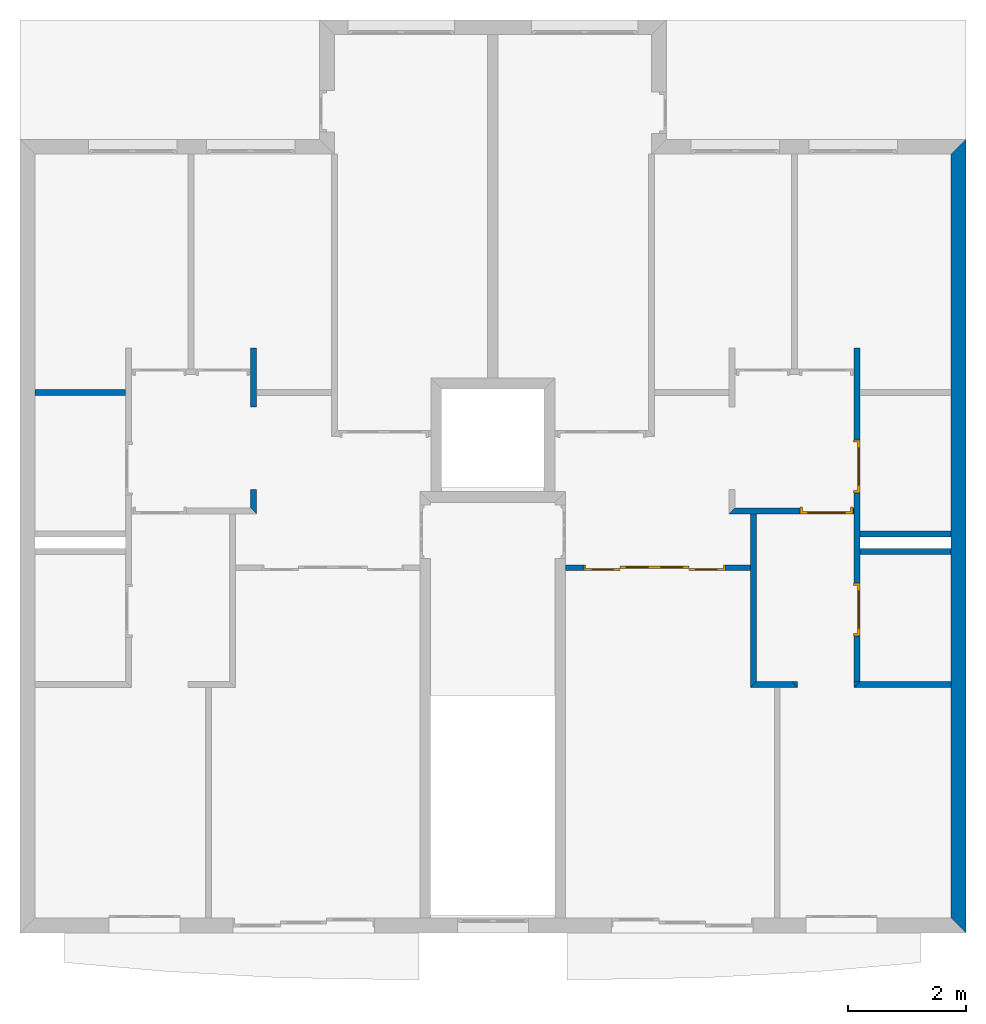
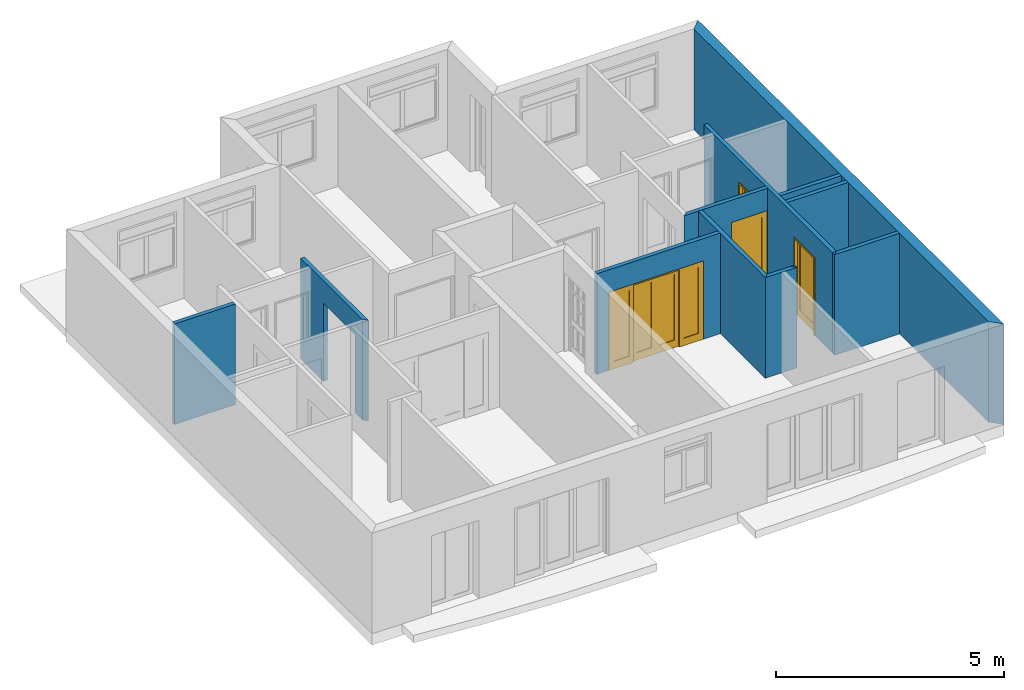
# One storey, part 8 of 13: 13 walls, 4 doors, 5 openings.
"""IFC2X3 building model written with IfcOpenShell, lengths in metres."""

from ifc_helpers import new_model, entity, si_unit, converted_unit, direction, frame, frame_2d, origin_with_axes, place, context, project, spatial, polyline, rectangle, outline, extrude, faceted_brep, source, transform, mapped, material, layer, layer_set, layer_usage, type_object, element, fill, save


model = new_model("IFC2X3")

# Units and contexts
context_of_model = context(None, 3, precision=1e-05, world=origin_with_axes(), true_north=direction((6.123234e-17, 1.0)))
plan_context = context("Plan", 3, precision=1e-05, world=origin_with_axes(), true_north=direction((6.123234e-17, 1.0)))
model_context = context("Model", 3, precision=1e-05, world=origin_with_axes(), true_north=direction((6.123234e-17, 1.0)))
ifc_project = project(units=[si_unit("LENGTHUNIT", "METRE"), si_unit("AREAUNIT", "SQUARE_METRE"), si_unit("VOLUMEUNIT", "CUBIC_METRE"), converted_unit("PLANEANGLEUNIT", "DEGREE", entity("IfcPlaneAngleMeasure", 0.017453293), si_unit("PLANEANGLEUNIT", "RADIAN"), dimensions=[0, 0, 0, 0, 0, 0, 0]), si_unit("SOLIDANGLEUNIT", "STERADIAN"), si_unit("MASSUNIT", "GRAM"), si_unit("TIMEUNIT", "SECOND"), si_unit("THERMODYNAMICTEMPERATUREUNIT", "DEGREE_CELSIUS"), si_unit("LUMINOUSINTENSITYUNIT", "LUMEN")], contexts=[context_of_model, plan_context, model_context])

# Site, building, storey
site_placement = place(None, origin_with_axes())
site = spatial("IfcSite", under=ifc_project, at=site_placement, Name="Por defecto Sitio", CompositionType="ELEMENT")
building_placement = place(site_placement, origin_with_axes())
building = spatial("IfcBuilding", under=site, at=building_placement, Name="Por defecto Edificio", CompositionType="ELEMENT")
storey_placement = place(building_placement, frame((0.0, 0.0, 7.2), z_axis=(0.0, 0.0, 1.0), x_axis=(1.0, 0.0, 0.0)))
storey = spatial("IfcBuildingStorey", under=building, at=storey_placement, Name="Segunda", CompositionType="ELEMENT", Elevation=7.2)

# Walls
ifc_material_1 = material(Name="Doble 1:4")
ifc_layer_1 = layer(ifc_material_1, 0.25, ventilated="UNKNOWN")
ifc_layer_set_1 = layer_set([ifc_layer_1], Name="Doble 1:4")
ifc_layer_usage_1 = layer_usage(ifc_layer_set_1, "AXIS2", "NEGATIVE", 0.0)
wall_type_1 = type_object("IfcWallType", Name="Doble 1:4", PredefinedType="NOTDEFINED")
wall_1_placement = place(storey_placement, frame((16.03417, 13.449173, 0.0), z_axis=(0.0, 0.0, 1.0), x_axis=(-2.1396841e-14, -1.0, 0.0)))
element("IfcWallStandardCase", 1, at=wall_1_placement, inside=storey, type_object=wall_type_1, material=ifc_layer_usage_1, Name="Muro-017", context=context_of_model, shape_type="SweptSolid", body=[
    extrude(outline(polyline([(0.25, -0.25), (13.199173, -0.25), (13.449173, 0.0), (0.0, 0.0), (0.25, -0.25)])), origin_with_axes(), (0.0, 0.0, 1.0), 2.7),
])
ifc_material_2 = material(Name="Ladrillo común")
ifc_layer_2 = layer(ifc_material_2, 0.1, ventilated="UNKNOWN")
ifc_layer_set_2 = layer_set([ifc_layer_2], Name="Ladrillo común")
ifc_layer_usage_2 = layer_usage(ifc_layer_set_2, "AXIS2", "POSITIVE", 0.0)
wall_type_2 = type_object("IfcWallType", Name="Ladrillo común", PredefinedType="NOTDEFINED")
wall_2_placement = place(storey_placement, frame((1.8901652, 9.2109196, 0.0), z_axis=(0.0, 0.0, 1.0), x_axis=(-1.0, 0.0, 0.0)))
element("IfcWallStandardCase", 2, at=wall_2_placement, inside=storey, type_object=wall_type_2, material=ifc_layer_usage_2, Name="Muro-037", context=context_of_model, shape_type="SweptSolid", body=[
    extrude(outline(polyline([(0.1, 0.0), (1.6401652, 0.0), (1.6401652, 0.1), (0.1, 0.1), (0.1, 0.0)])), origin_with_axes(), (0.0, 0.0, 1.0), 2.7),
])
ifc_layer_usage_3 = layer_usage(ifc_layer_set_2, "AXIS2", "NEGATIVE", 0.0)
wall_3_placement = place(storey_placement, frame((16.03417, 4.1588613, 0.0), z_axis=(0.0, 0.0, 1.0), x_axis=(-1.0, 0.0, 0.0)))
element("IfcWallStandardCase", 3, at=wall_3_placement, inside=storey, type_object=wall_type_2, material=ifc_layer_usage_3, Name="Muro-020", context=context_of_model, shape_type="SweptSolid", body=[
    extrude(outline(polyline([(0.25, -0.1), (1.7943351, -0.1), (1.8943351, 0.0), (0.25, 0.0), (0.25, -0.1)])), origin_with_axes(), (0.0, 0.0, 1.0), 2.7),
])
ifc_layer_usage_4 = layer_usage(ifc_layer_set_2, "AXIS2", "NEGATIVE", 0.0)
wall_4_placement = place(storey_placement, frame((14.139835, 6.8112172, 0.0), z_axis=(0.0, 0.0, 1.0), x_axis=(1.0, 0.0, 0.0)))
element("IfcWallStandardCase", 4, at=wall_4_placement, inside=storey, type_object=wall_type_2, material=ifc_layer_usage_4, Name="Muro-035", context=context_of_model, shape_type="SweptSolid", body=[
    extrude(outline(polyline([(0.1, -0.1), (1.6443351, -0.1), (1.6443351, 0.0), (0.1, 0.0), (0.1, -0.1)])), origin_with_axes(), (0.0, 0.0, 1.0), 2.7),
])
ifc_layer_usage_5 = layer_usage(ifc_layer_set_2, "AXIS2", "POSITIVE", 0.0)
wall_5_placement = place(storey_placement, frame((14.139835, 6.4112172, 0.0), z_axis=(0.0, 0.0, 1.0), x_axis=(1.0, 0.0, 0.0)))
element("IfcWallStandardCase", 5, at=wall_5_placement, inside=storey, type_object=wall_type_2, material=ifc_layer_usage_5, Name="Muro-036", context=context_of_model, shape_type="SweptSolid", body=[
    extrude(outline(polyline([(0.1, 0.0), (1.6443351, 0.0), (1.6443351, 0.1), (0.1, 0.1), (0.1, 0.0)])), origin_with_axes(), (0.0, 0.0, 1.0), 2.7),
])

# Wall, opening
ifc_layer_usage_6 = layer_usage(ifc_layer_set_2, "AXIS2", "NEGATIVE", 0.0)
wall_6_placement = place(storey_placement, frame((3.9101652, 7.2022014, 0.0), z_axis=(0.0, 0.0, 1.0), x_axis=(0.0, 1.0, 0.0)))
wall_6 = element("IfcWallStandardCase", 6, at=wall_6_placement, inside=storey, type_object=wall_type_2, material=ifc_layer_usage_6, Name="Muro-025", context=context_of_model, shape_type="SweptSolid", body=[
    extrude(outline(polyline([(-0.1, -0.1), (2.7087182, -0.1), (2.7087182, 4.4408921e-16), (0.0, 4.4408921e-16), (-0.1, -0.1)])), origin_with_axes(), (0.0, 0.0, 1.0), 2.7),
])
opening_1_placement = place(wall_6_placement, frame((1.0104776, -0.1, 0.0), z_axis=(0.0, 0.0, 1.0), x_axis=(1.0, 0.0, 0.0)))
element("IfcOpeningElement", 7, at=opening_1_placement, inside=storey, cuts=wall_6, ObjectType="Opening", context=model_context, shape_type="SweptSolid", body=[
    extrude(rectangle(XDim=1.4, YDim=2.1, at=frame_2d((4.4408921e-16, 1.05), x_axis=(-1.0, 0.0))), frame((0.0, 0.0, 0.0), z_axis=(0.0, 1.0, 0.0), x_axis=(-1.0, 0.0, 0.0)), (0.0, 0.0, 1.0), 0.1),
])

# Walls
ifc_layer_usage_7 = layer_usage(ifc_layer_set_2, "AXIS2", "NEGATIVE", 0.0)
wall_7_placement = place(storey_placement, frame((13.179835, 4.1588613, 0.0), z_axis=(0.0, 0.0, 1.0), x_axis=(-1.0, 0.0, 0.0)))
element("IfcWallStandardCase", 8, at=wall_7_placement, inside=storey, type_object=wall_type_2, material=ifc_layer_usage_7, Name="Muro-020", context=context_of_model, shape_type="SweptSolid", body=[
    extrude(outline(polyline([(0.1, -0.1), (0.7, -0.1), (0.8, 0.0), (0.0, 0.0), (0.1, -0.1)])), origin_with_axes(), (0.0, 0.0, 1.0), 2.7),
])
ifc_layer_usage_8 = layer_usage(ifc_layer_set_2, "AXIS2", "POSITIVE", 0.0)
wall_8_placement = place(storey_placement, frame((14.139835, 4.2588613, 0.0), z_axis=(0.0, 0.0, 1.0), x_axis=(0.0, -1.0, 0.0)))
element("IfcWallStandardCase", 9, at=wall_8_placement, inside=storey, type_object=wall_type_2, material=ifc_layer_usage_8, Name="Muro-034", context=context_of_model, shape_type="SweptSolid", body=[
    extrude(outline(polyline([(0.0, 0.0), (0.1, 0.0), (0.0, 0.1), (0.0, 0.1), (0.0, 0.0)])), origin_with_axes(), (0.0, 0.0, 1.0), 2.7),
])
ifc_layer_usage_9 = layer_usage(ifc_layer_set_2, "AXIS2", "NEGATIVE", 0.0)
wall_9_placement = place(storey_placement, frame((12.379835, 4.1588613, 0.0), z_axis=(0.0, 0.0, 1.0), x_axis=(0.0, 1.0, 0.0)))
element("IfcWallStandardCase", 10, at=wall_9_placement, inside=storey, type_object=wall_type_2, material=ifc_layer_usage_9, Name="Muro-021", context=context_of_model, shape_type="SweptSolid", body=[
    extrude(outline(polyline([(0.1, -0.1), (2.9433401, -0.1), (2.9433401, 0.0), (0.0, 0.0), (0.1, -0.1)])), origin_with_axes(), (0.0, 0.0, 1.0), 2.7),
])

# Wall, opening, door
ifc_layer_usage_10 = layer_usage(ifc_layer_set_2, "AXIS2", "POSITIVE", 0.0)
wall_10_placement = place(storey_placement, frame((14.139835, 7.2022014, 0.0), z_axis=(0.0, 0.0, 1.0), x_axis=(-1.0, 0.0, 0.0)))
wall_10 = element("IfcWallStandardCase", 11, at=wall_10_placement, inside=storey, type_object=wall_type_2, material=ifc_layer_usage_10, Name="Muro-024", context=context_of_model, shape_type="SweptSolid", body=[
    extrude(outline(polyline([(0.0, 0.0), (2.02, 0.0), (2.12, 0.1), (0.0, 0.1), (0.0, 0.0)])), origin_with_axes(), (0.0, 0.0, 1.0), 2.7),
])
opening_2_placement = place(wall_10_placement, frame((0.46942735, 0.0, 0.0), z_axis=(0.0, 0.0, 1.0), x_axis=(1.0, 0.0, 0.0)))
opening_2 = element("IfcOpeningElement", 12, at=opening_2_placement, cuts=wall_10, ObjectType="Opening", context=model_context, shape_type="SweptSolid", body=[
    extrude(rectangle(XDim=0.9, YDim=2.1, at=frame_2d((0.0, 1.05), x_axis=(-1.0, 0.0))), frame((0.0, 0.0, 0.0), z_axis=(0.0, 1.0, 0.0), x_axis=(-1.0, 0.0, 0.0)), (0.0, 0.0, 1.0), 0.1),
])
door_style_1 = type_object("IfcDoorStyle", Name="P1 12", ConstructionType="NOTDEFINED", OperationType="SINGLE_SWING_RIGHT", ParameterTakesPrecedence=False, Sizeable=False)
shared_shape_1 = source(origin_with_axes(), model_context, "Body", "Brep", [
    faceted_brep([(0.04, 0.075, -2.4492936e-18), (0.04, 0.075, 2.06), (0.04, 0.0, 2.06), (0.04, 0.0, -7.0417191e-18), (0.028, 0.075, 2.06), (0.028, 0.075, -2.4492936e-18), (0.028, 0.115, 2.06), (0.0, 0.115, 2.06), (0.0, 0.0, 2.06), (0.0, 0.0, 0.0), (0.0, 0.115, 3.3744595e-33), (0.028, 0.115, 3.2707143e-33)], [[[0, 1, 2, 3]], [[4, 1, 0, 5]], [[4, 6, 7, 8, 2, 1]], [[9, 3, 2, 8]], [[5, 0, 3, 9, 10, 11]], [[6, 4, 5, 11]], [[6, 11, 10, 7]], [[8, 7, 10, 9]]]),
    faceted_brep([(0.872, 0.075, 2.06), (0.86, 0.075, 2.06), (0.86, 0.0, 2.06), (0.9, 0.0, 2.06), (0.9, 0.115, 2.06), (0.872, 0.115, 2.06), (0.872, 0.075, -2.4492936e-18), (0.86, 0.075, -2.4492936e-18), (0.86, 0.0, -7.0417191e-18), (0.9, 0.0, -7.0417191e-18), (0.9, 0.115, -3.3744595e-33), (0.872, 0.115, -3.1644931e-33)], [[[0, 1, 2, 3, 4, 5]], [[1, 0, 6, 7]], [[1, 7, 8, 2]], [[8, 9, 3, 2]], [[9, 10, 4, 3]], [[11, 5, 4, 10]], [[0, 5, 11, 6]], [[6, 11, 10, 9, 8, 7]]]),
    faceted_brep([(0.028, 0.115, 2.072), (0.028, 0.115, 2.06), (0.0, 0.115, 2.06), (0.0, 0.115, 2.1), (0.9, 0.115, 2.1), (0.9, 0.115, 2.06), (0.872, 0.115, 2.06), (0.872, 0.115, 2.072), (0.028, 0.075, 2.072), (0.028, 0.075, 2.06), (0.04, 0.075, 2.06), (0.04, 0.0, 2.06), (0.0, 0.0, 2.06), (0.0, 0.0, 2.1), (0.9, 0.0, 2.1), (0.9, 0.0, 2.06), (0.872, 0.075, 2.06), (0.86, 0.0, 2.06), (0.86, 0.075, 2.06), (0.872, 0.075, 2.072)], [[[0, 1, 2, 3, 4, 5, 6, 7]], [[1, 0, 8, 9]], [[9, 10, 11, 12, 2, 1]], [[13, 3, 2, 12]], [[14, 4, 3, 13]], [[15, 5, 4, 14]], [[16, 6, 5, 15, 17, 18]], [[7, 6, 16, 19]], [[0, 7, 19, 8]], [[16, 18, 10, 9, 8, 19]], [[10, 18, 17, 11]], [[14, 13, 12, 11, 17, 15]]]),
    faceted_brep([(0.872, 0.115, 0.2), (0.872, 0.075, 0.2), (0.772, 0.075, 0.2), (0.772, 0.115, 0.2), (0.872, 0.115, 1.972), (0.872, 0.075, 1.972), (0.772, 0.075, 1.972), (0.772, 0.115, 1.972)], [[[0, 1, 2, 3]], [[4, 5, 1, 0]], [[1, 5, 6, 2]], [[3, 2, 6, 7]], [[0, 3, 7, 4]], [[7, 6, 5, 4]]]),
    faceted_brep([(0.028, 0.115, 0.2), (0.028, 0.075, 0.2), (0.028, 0.075, 1.972), (0.028, 0.115, 1.972), (0.128, 0.115, 0.2), (0.128, 0.075, 0.2), (0.128, 0.075, 1.972), (0.128, 0.115, 1.972)], [[[0, 1, 2, 3]], [[4, 5, 1, 0]], [[1, 5, 6, 2]], [[3, 2, 6, 7]], [[0, 3, 7, 4]], [[7, 6, 5, 4]]]),
    faceted_brep([(0.872, 0.115, -3.1644931e-33), (0.872, 0.075, -2.4492936e-18), (0.028, 0.075, -2.4492936e-18), (0.028, 0.115, 3.1644931e-33), (0.872, 0.115, 0.2), (0.872, 0.075, 0.2), (0.772, 0.075, 0.2), (0.128, 0.075, 0.2), (0.028, 0.075, 0.2), (0.028, 0.115, 0.2), (0.128, 0.115, 0.2), (0.772, 0.115, 0.2)], [[[0, 1, 2, 3]], [[4, 5, 1, 0]], [[1, 5, 6, 7, 8, 2]], [[3, 2, 8, 9]], [[0, 3, 9, 10, 11, 4]], [[11, 6, 5, 4]], [[10, 7, 6, 11]], [[9, 8, 7, 10]]]),
    faceted_brep([(0.872, 0.115, 2.072), (0.872, 0.075, 2.072), (0.872, 0.075, 1.972), (0.872, 0.115, 1.972), (0.028, 0.115, 2.072), (0.028, 0.075, 2.072), (0.028, 0.075, 1.972), (0.128, 0.075, 1.972), (0.772, 0.075, 1.972), (0.772, 0.115, 1.972), (0.128, 0.115, 1.972), (0.028, 0.115, 1.972)], [[[0, 1, 2, 3]], [[4, 5, 1, 0]], [[1, 5, 6, 7, 8, 2]], [[3, 2, 8, 9]], [[0, 3, 9, 10, 11, 4]], [[11, 6, 5, 4]], [[10, 7, 6, 11]], [[9, 8, 7, 10]]]),
    faceted_brep([(0.772, 0.101, 0.2), (0.772, 0.089, 0.2), (0.128, 0.089, 0.2), (0.128, 0.101, 0.2), (0.772, 0.101, 1.972), (0.772, 0.089, 1.972), (0.128, 0.089, 1.972), (0.128, 0.101, 1.972)], [[[0, 1, 2, 3]], [[4, 5, 1, 0]], [[1, 5, 6, 2]], [[3, 2, 6, 7]], [[0, 3, 7, 4]], [[7, 6, 5, 4]]]),
])
door_1_placement = place(opening_2_placement, frame((-0.45, -0.015, 0.0), z_axis=(0.0, 0.0, 1.0), x_axis=(1.0, 0.0, 0.0)))
door_1 = element("IfcDoor", 13, at=door_1_placement, inside=storey, type_object=door_style_1, Name="P18", OverallHeight=2.1, OverallWidth=0.9, context=model_context, shape_type="MappedRepresentation", body=[
    mapped(shared_shape_1, transform((0.0, 0.0, 0.0), scale=1.0)),
])
fill(opening_2, door_1)

ifc_layer_usage_11 = layer_usage(ifc_layer_set_2, "AXIS2", "NEGATIVE", 0.05)
wall_11_placement = place(storey_placement, frame((12.379835, 6.1881579, 0.0), z_axis=(0.0, 0.0, 1.0), x_axis=(-1.0, 0.0, 0.0)))
wall_11 = element("IfcWallStandardCase", 14, at=wall_11_placement, inside=storey, type_object=wall_type_2, material=ifc_layer_usage_11, Name="Muro-028", context=context_of_model, shape_type="SweptSolid", body=[
    extrude(outline(polyline([(0.0, -0.05), (3.1306649, -0.05), (3.1306649, 0.05), (0.0, 0.05), (0.0, -0.05)])), origin_with_axes(), (0.0, 0.0, 1.0), 2.7),
])
opening_3_placement = place(wall_11_placement, frame((1.6239004, -0.05, 0.0), z_axis=(0.0, 0.0, 1.0), x_axis=(1.0, 0.0, 0.0)))
opening_3 = element("IfcOpeningElement", 15, at=opening_3_placement, cuts=wall_11, ObjectType="Opening", context=model_context, shape_type="SweptSolid", body=[
    extrude(rectangle(XDim=2.4, YDim=2.1, at=frame_2d((0.0, 1.05), x_axis=(1.0, 0.0))), frame((0.0, 0.0, 0.0), z_axis=(0.0, 1.0, 0.0), x_axis=(-1.0, 0.0, 0.0)), (0.0, 0.0, 1.0), 0.1),
])
door_style_2 = type_object("IfcDoorStyle", Name="P4 Corredera 12", ConstructionType="NOTDEFINED", OperationType="DOUBLE_DOOR_SLIDING", ParameterTakesPrecedence=False, Sizeable=False)
shared_shape_2 = source(origin_with_axes(), model_context, "Body", "Brep", [
    faceted_brep([(2.368, 0.1, 0.0), (2.368, -8.8817842e-16, 0.0), (2.368, 0.0, 2.068), (2.368, 0.1, 2.068), (2.4, 0.1, 0.0), (2.4, -8.8817842e-16, 0.0), (2.4, 0.0, 2.068), (2.4, 0.1, 2.068)], [[[0, 1, 2, 3]], [[4, 5, 1, 0]], [[1, 5, 6, 2]], [[3, 2, 6, 7]], [[0, 3, 7, 4]], [[7, 6, 5, 4]]]),
    faceted_brep([(0.0, 0.1, 0.0), (0.0, 0.0, 0.0), (0.0, 0.0, 2.068), (0.0, 0.1, 2.068), (0.032, 0.1, 0.0), (0.032, 0.0, 0.0), (0.032, 0.0, 2.068), (0.032, 0.1, 2.068)], [[[0, 1, 2, 3]], [[4, 5, 1, 0]], [[1, 5, 6, 2]], [[3, 2, 6, 7]], [[0, 3, 7, 4]], [[7, 6, 5, 4]]]),
    faceted_brep([(2.4, 0.1, 2.1), (2.4, 0.0, 2.1), (2.4, 0.0, 2.068), (2.4, 0.1, 2.068), (0.0, 0.1, 2.1), (0.0, 0.0, 2.1), (0.0, 0.0, 2.068), (0.032, 0.0, 2.068), (2.368, 0.0, 2.068), (2.368, 0.1, 2.068), (0.032, 0.1, 2.068), (0.0, 0.1, 2.068)], [[[0, 1, 2, 3]], [[4, 5, 1, 0]], [[1, 5, 6, 7, 8, 2]], [[3, 2, 8, 9]], [[0, 3, 9, 10, 11, 4]], [[11, 6, 5, 4]], [[10, 7, 6, 11]], [[9, 8, 7, 10]]]),
    faceted_brep([(0.032, 0.1, 0.2), (0.132, 0.1, 0.2), (0.132, 0.06, 0.2), (0.032, 0.06, 0.2), (0.032, 0.1, 1.968), (0.132, 0.1, 1.968), (0.132, 0.06, 1.968), (0.032, 0.06, 1.968)], [[[0, 1, 2, 3]], [[0, 4, 5, 1]], [[1, 5, 6, 2]], [[3, 2, 6, 7]], [[4, 0, 3, 7]], [[5, 4, 7, 6]]]),
    faceted_brep([(0.616, 0.1, 0.2), (0.616, 0.1, 1.968), (0.616, 0.06, 1.968), (0.616, 0.06, 0.2), (0.516, 0.1, 0.2), (0.516, 0.1, 1.968), (0.516, 0.06, 1.968), (0.516, 0.06, 0.2)], [[[0, 1, 2, 3]], [[0, 4, 5, 1]], [[1, 5, 6, 2]], [[3, 2, 6, 7]], [[4, 0, 3, 7]], [[5, 4, 7, 6]]]),
    faceted_brep([(0.032, 0.1, 0.0), (0.616, 0.1, 0.0), (0.616, 0.06, 0.0), (0.032, 0.06, 0.0), (0.032, 0.1, 0.2), (0.132, 0.1, 0.2), (0.516, 0.1, 0.2), (0.616, 0.1, 0.2), (0.616, 0.06, 0.2), (0.516, 0.06, 0.2), (0.132, 0.06, 0.2), (0.032, 0.06, 0.2)], [[[0, 1, 2, 3]], [[0, 4, 5, 6, 7, 1]], [[1, 7, 8, 2]], [[3, 2, 8, 9, 10, 11]], [[4, 0, 3, 11]], [[5, 4, 11, 10]], [[6, 5, 10, 9]], [[7, 6, 9, 8]]]),
    faceted_brep([(0.032, 0.1, 2.068), (0.032, 0.1, 1.968), (0.032, 0.06, 1.968), (0.032, 0.06, 2.068), (0.616, 0.1, 2.068), (0.616, 0.1, 1.968), (0.516, 0.1, 1.968), (0.132, 0.1, 1.968), (0.132, 0.06, 1.968), (0.516, 0.06, 1.968), (0.616, 0.06, 1.968), (0.616, 0.06, 2.068)], [[[0, 1, 2, 3]], [[0, 4, 5, 6, 7, 1]], [[1, 7, 8, 2]], [[3, 2, 8, 9, 10, 11]], [[4, 0, 3, 11]], [[5, 4, 11, 10]], [[6, 5, 10, 9]], [[7, 6, 9, 8]]]),
    faceted_brep([(0.132, 0.086, 0.2), (0.516, 0.086, 0.2), (0.516, 0.074, 0.2), (0.132, 0.074, 0.2), (0.132, 0.086, 1.968), (0.516, 0.086, 1.968), (0.516, 0.074, 1.968), (0.132, 0.074, 1.968)], [[[0, 1, 2, 3]], [[0, 4, 5, 1]], [[1, 5, 6, 2]], [[3, 2, 6, 7]], [[4, 0, 3, 7]], [[5, 4, 7, 6]]]),
    faceted_brep([(2.368, 0.1, 0.2), (2.368, 0.06, 0.2), (2.268, 0.06, 0.2), (2.268, 0.1, 0.2), (2.368, 0.1, 1.968), (2.368, 0.06, 1.968), (2.268, 0.06, 1.968), (2.268, 0.1, 1.968)], [[[0, 1, 2, 3]], [[4, 5, 1, 0]], [[1, 5, 6, 2]], [[3, 2, 6, 7]], [[0, 3, 7, 4]], [[7, 6, 5, 4]]]),
    faceted_brep([(1.784, 0.1, 0.2), (1.784, 0.06, 0.2), (1.784, 0.06, 1.968), (1.784, 0.1, 1.968), (1.884, 0.1, 0.2), (1.884, 0.06, 0.2), (1.884, 0.06, 1.968), (1.884, 0.1, 1.968)], [[[0, 1, 2, 3]], [[4, 5, 1, 0]], [[1, 5, 6, 2]], [[3, 2, 6, 7]], [[0, 3, 7, 4]], [[7, 6, 5, 4]]]),
    faceted_brep([(2.368, 0.1, 0.0), (2.368, 0.06, 0.0), (1.784, 0.06, 0.0), (1.784, 0.1, 0.0), (2.368, 0.1, 0.2), (2.368, 0.06, 0.2), (2.268, 0.06, 0.2), (1.884, 0.06, 0.2), (1.784, 0.06, 0.2), (1.784, 0.1, 0.2), (1.884, 0.1, 0.2), (2.268, 0.1, 0.2)], [[[0, 1, 2, 3]], [[4, 5, 1, 0]], [[1, 5, 6, 7, 8, 2]], [[3, 2, 8, 9]], [[0, 3, 9, 10, 11, 4]], [[11, 6, 5, 4]], [[10, 7, 6, 11]], [[9, 8, 7, 10]]]),
    faceted_brep([(2.368, 0.1, 2.068), (2.368, 0.06, 2.068), (2.368, 0.06, 1.968), (2.368, 0.1, 1.968), (1.784, 0.1, 2.068), (1.784, 0.06, 2.068), (1.784, 0.06, 1.968), (1.884, 0.06, 1.968), (2.268, 0.06, 1.968), (2.268, 0.1, 1.968), (1.884, 0.1, 1.968), (1.784, 0.1, 1.968)], [[[0, 1, 2, 3]], [[4, 5, 1, 0]], [[1, 5, 6, 7, 8, 2]], [[3, 2, 8, 9]], [[0, 3, 9, 10, 11, 4]], [[11, 6, 5, 4]], [[10, 7, 6, 11]], [[9, 8, 7, 10]]]),
    faceted_brep([(2.268, 0.086, 0.2), (2.268, 0.074, 0.2), (1.884, 0.074, 0.2), (1.884, 0.086, 0.2), (2.268, 0.086, 1.968), (2.268, 0.074, 1.968), (1.884, 0.074, 1.968), (1.884, 0.086, 1.968)], [[[0, 1, 2, 3]], [[4, 5, 1, 0]], [[1, 5, 6, 2]], [[3, 2, 6, 7]], [[0, 3, 7, 4]], [[7, 6, 5, 4]]]),
    faceted_brep([(0.616, 0.06, 0.2), (0.716, 0.06, 0.2), (0.716, 0.02, 0.2), (0.616, 0.02, 0.2), (0.616, 0.06, 1.968), (0.716, 0.06, 1.968), (0.716, 0.02, 1.968), (0.616, 0.02, 1.968)], [[[0, 1, 2, 3]], [[0, 4, 5, 1]], [[1, 5, 6, 2]], [[3, 2, 6, 7]], [[4, 0, 3, 7]], [[5, 4, 7, 6]]]),
    faceted_brep([(1.2, 0.06, 0.2), (1.2, 0.06, 1.968), (1.2, 0.02, 1.968), (1.2, 0.02, 0.2), (1.1, 0.06, 0.2), (1.1, 0.06, 1.968), (1.1, 0.02, 1.968), (1.1, 0.02, 0.2)], [[[0, 1, 2, 3]], [[0, 4, 5, 1]], [[1, 5, 6, 2]], [[3, 2, 6, 7]], [[4, 0, 3, 7]], [[5, 4, 7, 6]]]),
    faceted_brep([(0.616, 0.06, 0.0), (1.2, 0.06, 0.0), (1.2, 0.02, 0.0), (0.616, 0.02, 0.0), (0.616, 0.06, 0.2), (0.716, 0.06, 0.2), (1.1, 0.06, 0.2), (1.2, 0.06, 0.2), (1.2, 0.02, 0.2), (1.1, 0.02, 0.2), (0.716, 0.02, 0.2), (0.616, 0.02, 0.2)], [[[0, 1, 2, 3]], [[0, 4, 5, 6, 7, 1]], [[1, 7, 8, 2]], [[3, 2, 8, 9, 10, 11]], [[4, 0, 3, 11]], [[5, 4, 11, 10]], [[6, 5, 10, 9]], [[7, 6, 9, 8]]]),
    faceted_brep([(0.616, 0.06, 2.068), (0.616, 0.06, 1.968), (0.616, 0.02, 1.968), (0.616, 0.02, 2.068), (1.2, 0.06, 2.068), (1.2, 0.06, 1.968), (1.1, 0.06, 1.968), (0.716, 0.06, 1.968), (0.716, 0.02, 1.968), (1.1, 0.02, 1.968), (1.2, 0.02, 1.968), (1.2, 0.02, 2.068)], [[[0, 1, 2, 3]], [[0, 4, 5, 6, 7, 1]], [[1, 7, 8, 2]], [[3, 2, 8, 9, 10, 11]], [[4, 0, 3, 11]], [[5, 4, 11, 10]], [[6, 5, 10, 9]], [[7, 6, 9, 8]]]),
    faceted_brep([(0.716, 0.046, 0.2), (1.1, 0.046, 0.2), (1.1, 0.034, 0.2), (0.716, 0.034, 0.2), (0.716, 0.046, 1.968), (1.1, 0.046, 1.968), (1.1, 0.034, 1.968), (0.716, 0.034, 1.968)], [[[0, 1, 2, 3]], [[0, 4, 5, 1]], [[1, 5, 6, 2]], [[3, 2, 6, 7]], [[4, 0, 3, 7]], [[5, 4, 7, 6]]]),
    faceted_brep([(1.784, 0.06, 0.2), (1.784, 0.02, 0.2), (1.684, 0.02, 0.2), (1.684, 0.06, 0.2), (1.784, 0.06, 1.968), (1.784, 0.02, 1.968), (1.684, 0.02, 1.968), (1.684, 0.06, 1.968)], [[[0, 1, 2, 3]], [[4, 5, 1, 0]], [[1, 5, 6, 2]], [[3, 2, 6, 7]], [[0, 3, 7, 4]], [[7, 6, 5, 4]]]),
    faceted_brep([(1.2, 0.06, 0.2), (1.2, 0.02, 0.2), (1.2, 0.02, 1.968), (1.2, 0.06, 1.968), (1.3, 0.06, 0.2), (1.3, 0.02, 0.2), (1.3, 0.02, 1.968), (1.3, 0.06, 1.968)], [[[0, 1, 2, 3]], [[4, 5, 1, 0]], [[1, 5, 6, 2]], [[3, 2, 6, 7]], [[0, 3, 7, 4]], [[7, 6, 5, 4]]]),
    faceted_brep([(1.784, 0.06, 0.0), (1.784, 0.02, 0.0), (1.2, 0.02, 0.0), (1.2, 0.06, 0.0), (1.784, 0.06, 0.2), (1.784, 0.02, 0.2), (1.684, 0.02, 0.2), (1.3, 0.02, 0.2), (1.2, 0.02, 0.2), (1.2, 0.06, 0.2), (1.3, 0.06, 0.2), (1.684, 0.06, 0.2)], [[[0, 1, 2, 3]], [[4, 5, 1, 0]], [[1, 5, 6, 7, 8, 2]], [[3, 2, 8, 9]], [[0, 3, 9, 10, 11, 4]], [[11, 6, 5, 4]], [[10, 7, 6, 11]], [[9, 8, 7, 10]]]),
    faceted_brep([(1.784, 0.06, 2.068), (1.784, 0.02, 2.068), (1.784, 0.02, 1.968), (1.784, 0.06, 1.968), (1.2, 0.06, 2.068), (1.2, 0.02, 2.068), (1.2, 0.02, 1.968), (1.3, 0.02, 1.968), (1.684, 0.02, 1.968), (1.684, 0.06, 1.968), (1.3, 0.06, 1.968), (1.2, 0.06, 1.968)], [[[0, 1, 2, 3]], [[4, 5, 1, 0]], [[1, 5, 6, 7, 8, 2]], [[3, 2, 8, 9]], [[0, 3, 9, 10, 11, 4]], [[11, 6, 5, 4]], [[10, 7, 6, 11]], [[9, 8, 7, 10]]]),
    faceted_brep([(1.684, 0.046, 0.2), (1.684, 0.034, 0.2), (1.3, 0.034, 0.2), (1.3, 0.046, 0.2), (1.684, 0.046, 1.968), (1.684, 0.034, 1.968), (1.3, 0.034, 1.968), (1.3, 0.046, 1.968)], [[[0, 1, 2, 3]], [[4, 5, 1, 0]], [[1, 5, 6, 2]], [[3, 2, 6, 7]], [[0, 3, 7, 4]], [[7, 6, 5, 4]]]),
])
door_2_placement = place(opening_3_placement, frame((-1.2, 0.0, 0.0), z_axis=(0.0, 0.0, 1.0), x_axis=(1.0, 0.0, 0.0)))
door_2 = element("IfcDoor", 16, at=door_2_placement, inside=storey, type_object=door_style_2, Name="P21", OverallHeight=2.1, OverallWidth=2.4, context=model_context, shape_type="MappedRepresentation", body=[
    mapped(shared_shape_2, transform((0.0, 0.0, 0.0), scale=1.0)),
])
fill(opening_3, door_2)

# Wall, openings, doors
ifc_layer_usage_12 = layer_usage(ifc_layer_set_2, "AXIS2", "POSITIVE", 0.0)
wall_12_placement = place(storey_placement, frame((14.139835, 9.9109196, 0.0), z_axis=(0.0, 0.0, 1.0), x_axis=(0.0, -1.0, 0.0)))
wall_12 = element("IfcWallStandardCase", 17, at=wall_12_placement, inside=storey, type_object=wall_type_2, material=ifc_layer_usage_12, Name="Muro-034", context=context_of_model, shape_type="SweptSolid", body=[
    extrude(outline(polyline([(0.0, 0.0), (5.6520584, 0.0), (5.6520584, 0.1), (0.0, 0.1), (0.0, 0.0)])), origin_with_axes(), (0.0, 0.0, 1.0), 2.7),
])
opening_4_placement = place(wall_12_placement, frame((4.4313728, 0.0, 0.0), z_axis=(0.0, 0.0, 1.0), x_axis=(1.0, 0.0, 0.0)))
opening_4 = element("IfcOpeningElement", 18, at=opening_4_placement, cuts=wall_12, ObjectType="Opening", context=model_context, shape_type="SweptSolid", body=[
    extrude(rectangle(XDim=0.9, YDim=2.1, at=frame_2d((0.0, 1.05), x_axis=(-1.0, 0.0))), frame((0.0, 0.0, 0.0), z_axis=(0.0, 1.0, 0.0), x_axis=(-1.0, 0.0, 0.0)), (0.0, 0.0, 1.0), 0.1),
])
opening_5_placement = place(wall_12_placement, frame((2.0054523, 0.0, 0.0), z_axis=(0.0, 0.0, 1.0), x_axis=(1.0, 0.0, 0.0)))
opening_5 = element("IfcOpeningElement", 19, at=opening_5_placement, cuts=wall_12, ObjectType="Opening", context=model_context, shape_type="SweptSolid", body=[
    extrude(rectangle(XDim=0.9, YDim=2.1, at=frame_2d((-4.4408921e-16, 1.05), x_axis=(-1.0, 0.0))), frame((0.0, 0.0, 0.0), z_axis=(0.0, 1.0, 0.0), x_axis=(-1.0, 0.0, 0.0)), (0.0, 0.0, 1.0), 0.1),
])
door_style_3 = type_object("IfcDoorStyle", Name="P1 12", ConstructionType="NOTDEFINED", OperationType="SINGLE_SWING_RIGHT", ParameterTakesPrecedence=False, Sizeable=False)
door_3_placement = place(opening_4_placement, frame((-0.45, -0.015, 0.0), z_axis=(0.0, 0.0, 1.0), x_axis=(1.0, 0.0, 0.0)))
door_3 = element("IfcDoor", 20, at=door_3_placement, inside=storey, type_object=door_style_3, Name="P19", OverallHeight=2.1, OverallWidth=0.9, context=model_context, shape_type="MappedRepresentation", body=[
    mapped(shared_shape_1, transform((0.0, 0.0, 0.0), scale=1.0)),
])
fill(opening_4, door_3)
door_style_4 = type_object("IfcDoorStyle", Name="P1 12", ConstructionType="NOTDEFINED", OperationType="SINGLE_SWING_LEFT", ParameterTakesPrecedence=False, Sizeable=False)
shared_shape_3 = source(origin_with_axes(), model_context, "Body", "Brep", [
    faceted_brep([(0.86, 0.075, 0.0), (0.86, 0.0, 0.0), (0.86, 0.0, 2.06), (0.86, 0.075, 2.06), (0.872, 0.075, 0.0), (0.872, 0.115, 0.0), (0.9, 0.115, 0.0), (0.9, 0.0, 0.0), (0.9, 0.0, 2.06), (0.872, 0.075, 2.06), (0.9, 0.115, 2.06), (0.872, 0.115, 2.06)], [[[0, 1, 2, 3]], [[4, 5, 6, 7, 1, 0]], [[7, 8, 2, 1]], [[9, 3, 2, 8, 10, 11]], [[9, 4, 0, 3]], [[11, 5, 4, 9]], [[11, 10, 6, 5]], [[8, 7, 6, 10]]]),
    faceted_brep([(0.028, 0.075, 2.06), (0.028, 0.115, 2.06), (-4.4408921e-16, 0.115, 2.06), (-4.4408921e-16, 0.0, 2.06), (0.04, 0.0, 2.06), (0.04, 0.075, 2.06), (0.028, 0.075, 0.0), (0.028, 0.115, 0.0), (-4.4408921e-16, 0.115, 0.0), (0.0, 0.0, 0.0), (0.04, 0.0, 0.0), (0.04, 0.075, 0.0)], [[[0, 1, 2, 3, 4, 5]], [[0, 6, 7, 1]], [[7, 8, 2, 1]], [[9, 3, 2, 8]], [[10, 4, 3, 9]], [[5, 4, 10, 11]], [[5, 11, 6, 0]], [[6, 11, 10, 9, 8, 7]]]),
    faceted_brep([(0.872, 0.115, 2.072), (0.028, 0.115, 2.072), (0.028, 0.115, 2.06), (-4.4408921e-16, 0.115, 2.06), (-4.4408921e-16, 0.115, 2.1), (0.9, 0.115, 2.1), (0.9, 0.115, 2.06), (0.872, 0.115, 2.06), (0.872, 0.075, 2.072), (0.028, 0.075, 2.072), (0.028, 0.075, 2.06), (0.04, 0.075, 2.06), (0.04, 0.0, 2.06), (-4.4408921e-16, 0.0, 2.06), (-4.4408921e-16, 0.0, 2.1), (0.9, 0.0, 2.1), (0.9, 0.0, 2.06), (0.872, 0.075, 2.06), (0.86, 0.0, 2.06), (0.86, 0.075, 2.06)], [[[0, 1, 2, 3, 4, 5, 6, 7]], [[0, 8, 9, 1]], [[1, 9, 10, 2]], [[10, 11, 12, 13, 3, 2]], [[13, 14, 4, 3]], [[14, 15, 5, 4]], [[15, 16, 6, 5]], [[17, 7, 6, 16, 18, 19]], [[7, 17, 8, 0]], [[10, 9, 8, 17, 19, 11]], [[19, 18, 12, 11]], [[14, 13, 12, 18, 16, 15]]]),
    faceted_brep([(0.028, 0.115, 0.2), (0.128, 0.115, 0.2), (0.128, 0.075, 0.2), (0.028, 0.075, 0.2), (0.028, 0.115, 1.972), (0.128, 0.115, 1.972), (0.128, 0.075, 1.972), (0.028, 0.075, 1.972)], [[[0, 1, 2, 3]], [[0, 4, 5, 1]], [[1, 5, 6, 2]], [[3, 2, 6, 7]], [[4, 0, 3, 7]], [[5, 4, 7, 6]]]),
    faceted_brep([(0.872, 0.115, 0.2), (0.872, 0.115, 1.972), (0.872, 0.075, 1.972), (0.872, 0.075, 0.2), (0.772, 0.115, 0.2), (0.772, 0.115, 1.972), (0.772, 0.075, 1.972), (0.772, 0.075, 0.2)], [[[0, 1, 2, 3]], [[0, 4, 5, 1]], [[1, 5, 6, 2]], [[3, 2, 6, 7]], [[4, 0, 3, 7]], [[5, 4, 7, 6]]]),
    faceted_brep([(0.028, 0.115, 0.0), (0.872, 0.115, 0.0), (0.872, 0.075, 0.0), (0.028, 0.075, 0.0), (0.028, 0.115, 0.2), (0.128, 0.115, 0.2), (0.772, 0.115, 0.2), (0.872, 0.115, 0.2), (0.872, 0.075, 0.2), (0.772, 0.075, 0.2), (0.128, 0.075, 0.2), (0.028, 0.075, 0.2)], [[[0, 1, 2, 3]], [[0, 4, 5, 6, 7, 1]], [[1, 7, 8, 2]], [[3, 2, 8, 9, 10, 11]], [[4, 0, 3, 11]], [[5, 4, 11, 10]], [[6, 5, 10, 9]], [[7, 6, 9, 8]]]),
    faceted_brep([(0.028, 0.115, 2.072), (0.028, 0.115, 1.972), (0.028, 0.075, 1.972), (0.028, 0.075, 2.072), (0.872, 0.115, 2.072), (0.872, 0.115, 1.972), (0.772, 0.115, 1.972), (0.128, 0.115, 1.972), (0.128, 0.075, 1.972), (0.772, 0.075, 1.972), (0.872, 0.075, 1.972), (0.872, 0.075, 2.072)], [[[0, 1, 2, 3]], [[0, 4, 5, 6, 7, 1]], [[1, 7, 8, 2]], [[3, 2, 8, 9, 10, 11]], [[4, 0, 3, 11]], [[5, 4, 11, 10]], [[6, 5, 10, 9]], [[7, 6, 9, 8]]]),
    faceted_brep([(0.128, 0.101, 0.2), (0.772, 0.101, 0.2), (0.772, 0.089, 0.2), (0.128, 0.089, 0.2), (0.128, 0.101, 1.972), (0.772, 0.101, 1.972), (0.772, 0.089, 1.972), (0.128, 0.089, 1.972)], [[[0, 1, 2, 3]], [[0, 4, 5, 1]], [[1, 5, 6, 2]], [[3, 2, 6, 7]], [[4, 0, 3, 7]], [[5, 4, 7, 6]]]),
])
door_4_placement = place(opening_5_placement, frame((-0.45, -0.015, 0.0), z_axis=(0.0, 0.0, 1.0), x_axis=(1.0, 0.0, 0.0)))
door_4 = element("IfcDoor", 21, at=door_4_placement, inside=storey, type_object=door_style_4, Name="P20", OverallHeight=2.1, OverallWidth=0.9, context=model_context, shape_type="MappedRepresentation", body=[
    mapped(shared_shape_3, transform((0.0, 0.0, 0.0), scale=1.0)),
])
fill(opening_5, door_4)

# Wall
ifc_layer_usage_13 = layer_usage(ifc_layer_set_2, "AXIS2", "POSITIVE", 0.0)
wall_13_placement = place(storey_placement, frame((13.179835, 4.1588613, 0.0), z_axis=(0.0, 0.0, 1.0), x_axis=(0.0, 1.0, 0.0)))
element("IfcWallStandardCase", 22, at=wall_13_placement, inside=storey, type_object=wall_type_2, material=ifc_layer_usage_13, Name="Muro-023", context=context_of_model, shape_type="SweptSolid", body=[
    extrude(outline(polyline([(0.0, 0.0), (0.1, 0.0), (0.1, 0.1), (0.1, 0.1), (0.0, 0.0)])), origin_with_axes(), (0.0, 0.0, 1.0), 2.7),
])

save(model, "model.ifc")
